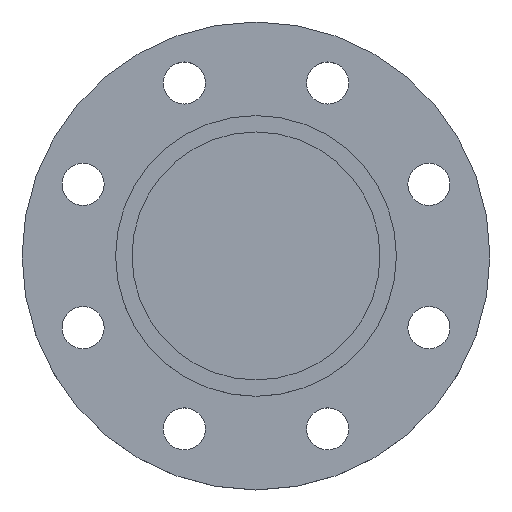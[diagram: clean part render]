
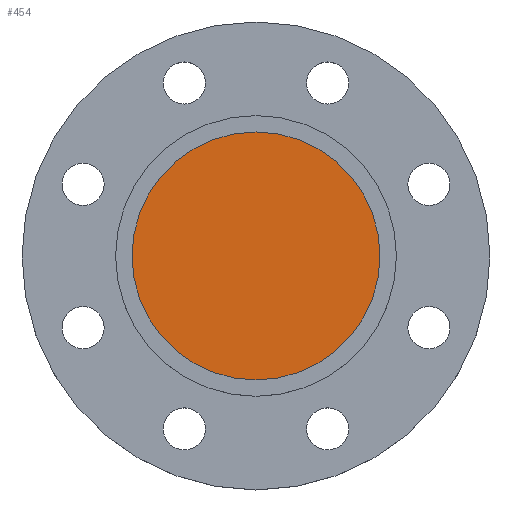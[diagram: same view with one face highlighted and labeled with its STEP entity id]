
A CAD part, top view. The second image highlights one B-rep face of the part: STEP entity #454.
In plain terms, the highlighted planar face has unit normal (0, 0, 1).
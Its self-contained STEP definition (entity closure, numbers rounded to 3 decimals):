
#10 = AXIS2_PLACEMENT_3D ( 'NONE', #453, #452, #451 ) ;
#11 = CIRCLE ( 'NONE', #684, 53. ) ;
#39 = EDGE_CURVE ( 'NONE', #671, #681, #422, .T. ) ;
#299 = DIRECTION ( 'NONE',  ( 0., 0., -1. ) ) ;
#307 = CARTESIAN_POINT ( 'NONE',  ( 0., 0., -4.5 ) ) ;
#357 = CARTESIAN_POINT ( 'NONE',  ( 53., 0., -4.5 ) ) ;
#362 = CARTESIAN_POINT ( 'NONE',  ( -53., 0., -4.5 ) ) ;
#422 = CIRCLE ( 'NONE', #755, 53. ) ;
#451 = DIRECTION ( 'NONE',  ( 1., 0., 0. ) ) ;
#452 = DIRECTION ( 'NONE',  ( 0., 0., 1. ) ) ;
#453 = CARTESIAN_POINT ( 'NONE',  ( 53., 0., -4.5 ) ) ;
#454 = ADVANCED_FACE ( 'NONE', ( #457 ), #456, .T. ) ;
#456 = PLANE ( 'NONE',  #10 ) ;
#457 = FACE_OUTER_BOUND ( 'NONE', #944, .T. ) ;
#671 = VERTEX_POINT ( 'NONE', #362 ) ;
#681 = VERTEX_POINT ( 'NONE', #357 ) ;
#684 = AXIS2_PLACEMENT_3D ( 'NONE', #307, #299, #703 ) ;
#703 = DIRECTION ( 'NONE',  ( -1., 0., 0. ) ) ;
#728 = DIRECTION ( 'NONE',  ( -1., 0., 0. ) ) ;
#729 = DIRECTION ( 'NONE',  ( 0., 0., -1. ) ) ;
#735 = CARTESIAN_POINT ( 'NONE',  ( 0., 0., -4.5 ) ) ;
#755 = AXIS2_PLACEMENT_3D ( 'NONE', #735, #729, #728 ) ;
#778 = EDGE_CURVE ( 'NONE', #681, #671, #11, .T. ) ;
#944 = EDGE_LOOP ( 'NONE', ( #993, #994 ) ) ;
#993 = ORIENTED_EDGE ( 'NONE', *, *, #39, .F. ) ;
#994 = ORIENTED_EDGE ( 'NONE', *, *, #778, .F. ) ;
